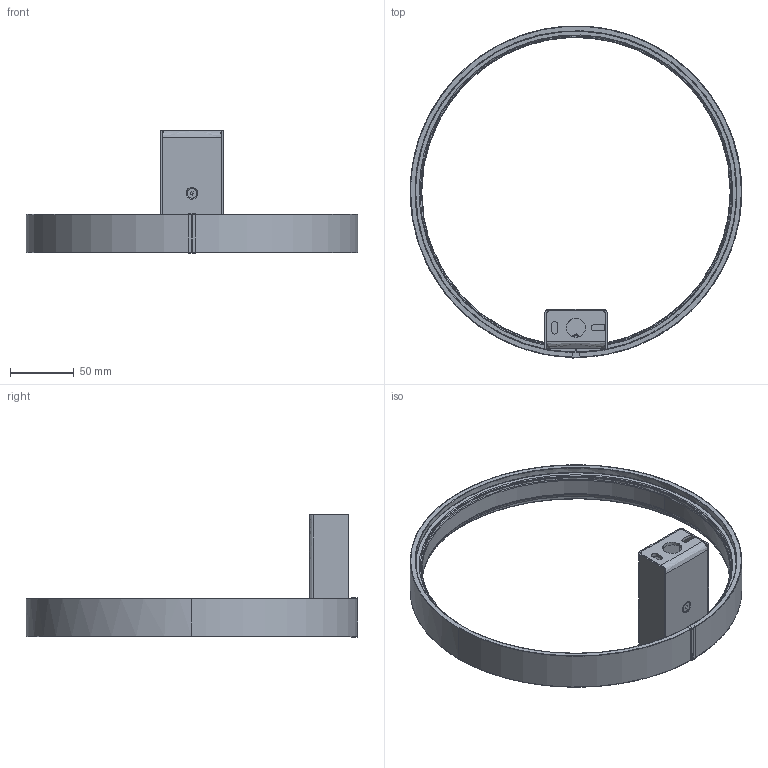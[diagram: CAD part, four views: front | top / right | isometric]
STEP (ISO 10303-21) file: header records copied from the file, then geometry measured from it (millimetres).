
FILE_DESCRIPTION(/* description */ (''),/* implementation_level */ '2;1');
FILE_NAME(/* name */ 'Zero Round A153__.025',/* time_stamp */ '2025-05-29T10:28:22+02:00',/* author */ (''),/* organization */ (''),/* preprocessor_version */ 'ST-DEVELOPER v16.5',/* originating_system */ '',/* authorisation */ '');
FILE_SCHEMA (('AUTOMOTIVE_DESIGN'));
Length unit declared in the file: millimetre
Products named in the file (10): Document; 3300.0142000.00 (profilo curvo Zero Round ALL 7,7x30mm D est. 260mm)_
3303.0142360.00; 3100.0041000.00 (schermo estruso Giplast 09PE79 PC 19x3,8mm per curva
 D int. 242mm)_3101.0041360.98; 3200.0251000.00 (scatola alimentazione ACC 94x48,9x33,2mm sp 1,2 con 
vite)_3210.0251000.00; weld studs for capacitor discharge a gb_GB_FASTENER_BOLT_WSWA M4X12-N; 3200.0250000.00 (staffa scatola alimentazione ACC 61x46,4x18,4mm sp 1
,2)_3209.0250000.00; 3200.0249000.00 (scatola alimentazione ACC 94x48,9x33,2mm sp 1,2)_320
9.0249000.00; 3200.0248000.00 (staffa di fissaggio a parete ACC 68,8x46,4x29,5mm sp
 2,5)_3209.0248000.00; 5401.0016000.00 (molla in nastro sagomata ACC INOX 5x31x5mm sp 0,4)_5
401.0016000.00; socket countersunk head screw_iso_ISO 10642 - M4 x 8 - 8N
Assembly tree (9 placements, depth 3):
  Document
    3300.0142000.00 (profilo curvo Zero Round ALL 7,7x30mm D est. 260mm)_
3303.0142360.00
    3100.0041000.00 (schermo estruso Giplast 09PE79 PC 19x3,8mm per curva
 D int. 242mm)_3101.0041360.98
    3200.0251000.00 (scatola alimentazione ACC 94x48,9x33,2mm sp 1,2 con 
vite)_3210.0251000.00
      weld studs for capacitor discharge a gb_GB_FASTENER_BOLT_WSWA M4X12-N
      3200.0250000.00 (staffa scatola alimentazione ACC 61x46,4x18,4mm sp 1
,2)_3209.0250000.00
      3200.0249000.00 (scatola alimentazione ACC 94x48,9x33,2mm sp 1,2)_320
9.0249000.00
    3200.0248000.00 (staffa di fissaggio a parete ACC 68,8x46,4x29,5mm sp
 2,5)_3209.0248000.00
    5401.0016000.00 (molla in nastro sagomata ACC INOX 5x31x5mm sp 0,4)_5
401.0016000.00
    socket countersunk head screw_iso_ISO 10642 - M4 x 8 - 8N
Bounding box: 260 x 260.38 x 95.95 mm (x, y, z)
Volume: 150288.4 mm3; surface area: 144145.9 mm2
Topology: 8 solids, 8 shells, 387 faces, 926 edges, 555 vertices
Faces by surface type: bspline 242, plane 145
Entity records: 19249 total; most frequent: CARTESIAN_POINT 13553, ORIENTED_EDGE 1848, EDGE_CURVE 924, VERTEX_POINT 555, B_SPLINE_CURVE_WITH_KNOTS 452, EDGE_LOOP 397, ADVANCED_FACE 387, FACE_OUTER_BOUND 387
